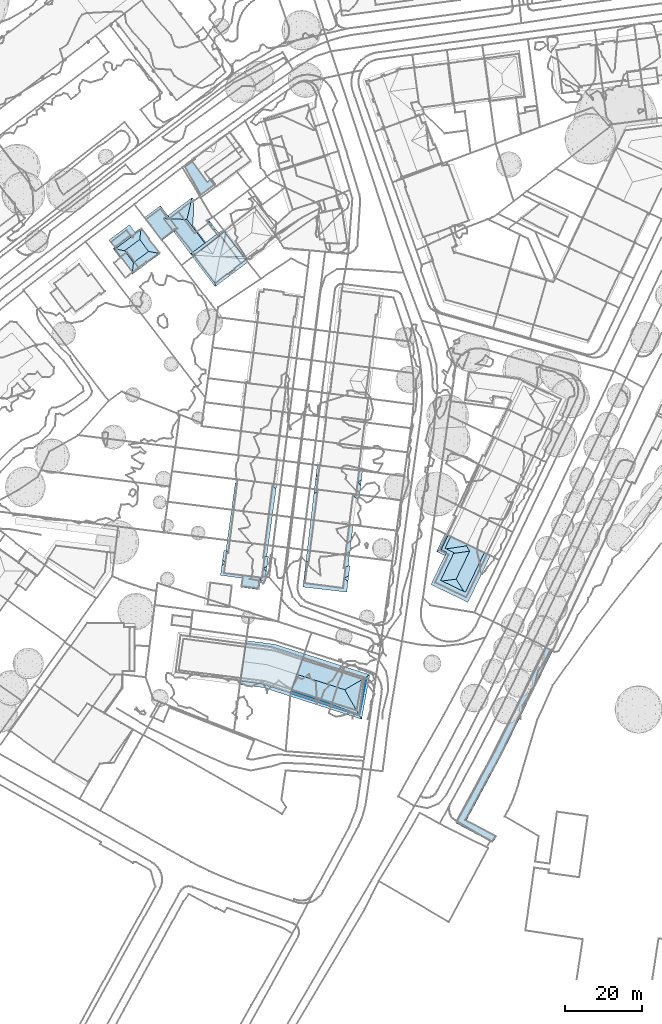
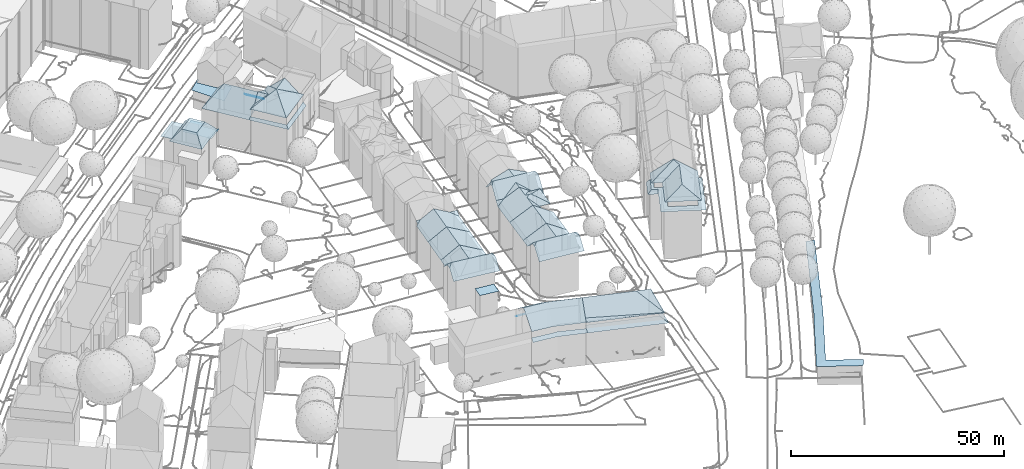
# Not in any storey, part 72 of 477: 24 roofs.
"""IFC4 building model written with IfcOpenShell, lengths in metres."""

import ifcopenshell
import ifcopenshell.guid

model = None  # the IFC model being written
_history = None  # IfcOwnerHistory: only IFC2X3 demands one
_inside = {}  # id of a spatial element -> (the spatial element, [elements in it])
_under = {}  # id of a project, library or spatial element -> (it, [spatial elements below it])
_declared = {}  # id of a project -> (the project, [libraries it declares])
_typed = {}  # id of a type object -> (the type object, [elements of that type])
_made_of = {}  # id of a material, layer set ... -> (it, [elements and type objects made of it])


def new_model(schema):
    """Start an empty IFC model of exactly this schema.

    Asked for "IFC4X3", IfcOpenShell would pick the latest addendum, in which some entities
    have other attributes; the version numbers below select the first issue.
    IFC2X3 requires an IfcOwnerHistory on every rooted entity: one is made here for all.
    """
    global model, _history
    if schema == "IFC4X3":
        model = ifcopenshell.file(schema_version=(4, 3, 0, 0))
    else:
        model = ifcopenshell.file(schema=schema)
    _inside.clear()
    _under.clear()
    _declared.clear()
    _typed.clear()
    _made_of.clear()
    _history = None
    if model.schema == "IFC2X3":
        org = make("IfcOrganization", Name="unknown")
        user = make(
            "IfcPersonAndOrganization",
            ThePerson=make("IfcPerson", FamilyName="unknown"),
            TheOrganization=org,
        )
        app = make(
            "IfcApplication",
            ApplicationDeveloper=org,
            Version="unknown",
            ApplicationFullName="unknown",
            ApplicationIdentifier="unknown",
        )
        _history = make(
            "IfcOwnerHistory",
            OwningUser=user,
            OwningApplication=app,
            ChangeAction="ADDED",
            CreationDate=0,
        )
    return model


def make(cls, **values):
    """One entity of the class cls with the attributes given. An attribute that is None is left unset."""
    return model.create_entity(
        cls, **{name: value for name, value in values.items() if value is not None}
    )


def rooted(cls, **values):
    """An entity with a GlobalId (a new one), such as an element, a storey or a relation."""
    return make(cls, GlobalId=ifcopenshell.guid.new(), OwnerHistory=_history, **values)


def si_unit(unit_type, name, prefix=None):
    """IfcSIUnit, for example si_unit("LENGTHUNIT", "METRE", prefix="MILLI")."""
    return make("IfcSIUnit", UnitType=unit_type, Prefix=prefix, Name=name)


def assignment(units):
    """IfcUnitAssignment: the units of a project."""
    return None if units is None else make("IfcUnitAssignment", Units=units)


def point(xyz):
    """IfcCartesianPoint."""
    return None if xyz is None else make("IfcCartesianPoint", Coordinates=xyz)


def direction(xyz):
    """IfcDirection."""
    return None if xyz is None else make("IfcDirection", DirectionRatios=xyz)


def frame(location, z_axis=None, x_axis=None):
    """IfcAxis2Placement3D, a coordinate frame: its origin and axes. An axis left out is left unset."""
    return make(
        "IfcAxis2Placement3D",
        Location=point(location),
        Axis=direction(z_axis),
        RefDirection=direction(x_axis),
    )


def origin_with_axes():
    """The frame at (0, 0, 0) with the z axis (0, 0, 1) and the x axis (1, 0, 0) written out."""
    return frame((0.0, 0.0, 0.0), z_axis=(0.0, 0.0, 1.0), x_axis=(1.0, 0.0, 0.0))


def place(relative_to, where):
    """IfcLocalPlacement: puts the frame where relative to a parent placement (None: the world)."""
    return make(
        "IfcLocalPlacement", PlacementRelTo=relative_to, RelativePlacement=where
    )


def context(
    kind, dimensions, precision=None, world=None, true_north=None, identifier=None
):
    """IfcGeometricRepresentationContext, for example the 3D "Model" context."""
    return make(
        "IfcGeometricRepresentationContext",
        ContextIdentifier=identifier,
        ContextType=kind,
        CoordinateSpaceDimension=dimensions,
        Precision=precision,
        WorldCoordinateSystem=world,
        TrueNorth=true_north,
    )


def subcontext(parent, identifier, kind, view, scale=None):
    """IfcGeometricRepresentationSubContext, for example "Body" below "Model"."""
    return make(
        "IfcGeometricRepresentationSubContext",
        ContextIdentifier=identifier,
        ContextType=kind,
        ParentContext=parent,
        TargetScale=scale,
        TargetView=view,
    )


def project(units=None, contexts=None):
    """IfcProject with its units and contexts."""
    return rooted(
        "IfcProject",
        Name="project",
        RepresentationContexts=contexts,
        UnitsInContext=assignment(units),
    )


def spatial(cls, under=None, at=None, **own):
    """A site, building, storey or space (cls), placed at a placement, below another one or the project."""
    s = rooted(cls, ObjectPlacement=at, **own)
    if under is not None:
        _under.setdefault(under.id(), (under, []))[1].append(s)
    return s


def point_list(points):
    """IfcCartesianPointList2D or 3D."""
    cls = (
        "IfcCartesianPointList2D" if len(points[0]) == 2 else "IfcCartesianPointList3D"
    )
    return make(cls, CoordList=points)


def polygons(points, faces, closed=None, point_numbers=None):
    """IfcPolygonalFaceSet: a face is its outer loop, then its inner loops; points numbered from 1."""
    made = []
    for loops in faces:
        if len(loops) == 1:
            made.append(make("IfcIndexedPolygonalFace", CoordIndex=loops[0]))
        else:
            made.append(
                make(
                    "IfcIndexedPolygonalFaceWithVoids",
                    CoordIndex=loops[0],
                    InnerCoordIndices=loops[1:],
                )
            )
    return make(
        "IfcPolygonalFaceSet",
        Coordinates=point_list(points),
        Closed=closed,
        Faces=made,
        PnIndex=point_numbers,
    )


def shape(context_of_items, identifier, shape_type, items):
    """IfcShapeRepresentation: the items that make up one representation, for example the "Body"."""
    return make(
        "IfcShapeRepresentation",
        ContextOfItems=context_of_items,
        RepresentationIdentifier=identifier,
        RepresentationType=shape_type,
        Items=items,
    )


def made_of(thing, what):
    """Note that an element or type object is made of a material, layer set ...; save() writes the relation."""
    if what is not None:
        _made_of.setdefault(what.id(), (what, []))[1].append(thing)
    return thing


def element(
    cls,
    number,
    at=None,
    inside=None,
    cuts=None,
    type_object=None,
    material=None,
    context=None,
    identifier="Body",
    shape_type=None,
    held_by="IfcProductDefinitionShape",
    body=None,
    shapes=None,
    **own,
):
    """One element of the class cls, such as IfcWall. Its Tag is "e" and its number.

    at: its placement. inside: the storey or other place that contains it. cuts: it is an
    opening in that element (IfcRelVoidsElement). A single representation is given by context,
    identifier, shape_type and body (its items); several are given by shapes. held_by: the class
    of the entity that holds the representations. save() writes the other relations.
    """
    e = rooted(cls, Tag="e%d" % number, ObjectPlacement=at, **own)
    if body is not None:
        shapes = [shape(context, identifier, shape_type, body)]
    if shapes is not None:
        e.Representation = make(held_by, Representations=shapes)
    if inside is not None:
        _inside.setdefault(inside.id(), (inside, []))[1].append(e)
    if cuts is not None:
        rooted(
            "IfcRelVoidsElement", RelatingBuildingElement=cuts, RelatedOpeningElement=e
        )
    if type_object is not None:
        _typed.setdefault(type_object.id(), (type_object, []))[1].append(e)
    return made_of(e, material)


def aggregate(whole, parts):
    """IfcRelAggregates: a whole, such as a stair, and the parts it consists of."""
    return rooted("IfcRelAggregates", RelatingObject=whole, RelatedObjects=parts)


def save(model, path):
    """Write the relations noted so far, then the file.

    IfcRelAggregates (storeys below a building ...), IfcRelContainedInSpatialStructure (elements
    in a storey), IfcRelDefinesByType, IfcRelAssociatesMaterial and IfcRelDeclares: one each for
    every whole, place, type object, material and project.
    """
    for whole, parts in _under.values():
        aggregate(whole, parts)
    for where, things in _inside.values():
        rooted(
            "IfcRelContainedInSpatialStructure",
            RelatedElements=things,
            RelatingStructure=where,
        )
    for kind, things in _typed.values():
        rooted("IfcRelDefinesByType", RelatedObjects=things, RelatingType=kind)
    for what, things in _made_of.values():
        rooted("IfcRelAssociatesMaterial", RelatedObjects=things, RelatingMaterial=what)
    for by, libraries in _declared.values():
        rooted("IfcRelDeclares", RelatingContext=by, RelatedDefinitions=libraries)
    model.write(path)


model = new_model("IFC4")

# Units and contexts
model_context = context("Model", 3, precision=1e-05, world=origin_with_axes())
body_context = subcontext(model_context, "Body", "Model", "MODEL_VIEW")
ifc_project = project(units=[si_unit("AREAUNIT", "SQUARE_METRE"), si_unit("LENGTHUNIT", "METRE")], contexts=[model_context])

# Sites, building
site_1_placement = place(None, origin_with_axes())
site_1 = spatial("IfcSite", under=ifc_project, at=site_1_placement, Name="Topoexport Site")
site_2_placement = place(site_1_placement, origin_with_axes())
site_2 = spatial("IfcSite", under=site_1, at=site_2_placement, Name="TPX_BUILDINGS")
building_1_placement = place(site_2_placement, frame((489.4687320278, 34.2352160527, 498.9664), z_axis=(0.0, 0.0, 1.0), x_axis=(1.0, 0.0, 0.0)))
building_1 = spatial("IfcBuilding", under=site_2, at=building_1_placement, Name="Building 15", CompositionType="ELEMENT")

# Roofs
roof_1_placement = place(None, frame((489.4687320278, 34.2352160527, 498.9664), z_axis=(0.0, 0.0, 1.0), x_axis=(1.0, 0.0, 0.0)))
element("IfcRoof", 1, at=roof_1_placement, inside=building_1, Name="Roof 0", context=body_context, shape_type="Tessellation", body=[
    polygons([(2.5169999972, 7.0595000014, 13.5567), (0.3369999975, 8.1103000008, 13.5567), (1.1779999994, 8.4442999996, 14.0427), (2.8189999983, 7.6884000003, 14.0667), (1.5649999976, 8.5986000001, 14.2667), (2.7929999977, 7.6347000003, 14.0227), (2.9379999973, 7.936499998, 14.2667), (1.4230000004, 0.6092999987, 14.2666), (7.8599999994, -2.4902999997, 14.2666), (8.5329999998, -5.1308999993, 14.2666), (12.7919999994, 7.7509000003, 14.2666), (14.3699999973, 6.9891999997, 14.2666), (2.5169999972, 7.0595000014, 14.2667), (-1.1160000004, -0.4834000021, 14.2667), (4.8990000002, 7.8242000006, 14.2667), (2.5659999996, 8.9481999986, 14.2667), (3.3489999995, 12.3037, 14.2667), (4.0260000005, 11.9774999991, 14.2667), (3.1030000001, 12.4228000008, 14.0497), (2.5439999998, 12.6922999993, 13.5567)], [[[3, 2, 1]], [[5, 3, 4]], [[1, 6, 3]], [[7, 5, 4]], [[4, 3, 6]], [[10, 9, 8]], [[12, 11, 9]], [[12, 9, 10]], [[14, 8, 13]], [[8, 14, 10]], [[13, 8, 15]], [[15, 7, 13]], [[16, 5, 7]], [[16, 17, 5]], [[7, 15, 16]], [[16, 18, 17]], [[19, 3, 17]], [[3, 19, 20]], [[17, 3, 5]], [[3, 20, 2]]]),
])
roof_2_placement = place(None, frame((489.4687320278, 34.2352160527, 498.9664), z_axis=(0.0, 0.0, 1.0), x_axis=(1.0, 0.0, 0.0)))
element("IfcRoof", 2, at=roof_2_placement, inside=building_1, Name="Roof 1", context=body_context, shape_type="Tessellation", body=[
    polygons([(12.7919999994, 7.7509000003, 16.6284), (7.4649999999, -2.3007999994, 16.9194), (8.9789999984, 8.2215999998, 19.0422), (5.4569999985, 0.9081999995, 19.0422), (8.2099999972, -3.4913000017, 16.1305), (8.311999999, 9.9100999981, 19.9281), (8.1579999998, 9.5907999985, 19.9281), (13.4679999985, 7.4248000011, 16.1305), (4.0260000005, 11.9774999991, 16.6484), (1.5649999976, 8.5986000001, 16.1305), (3.3499999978, 12.3037, 16.1305), (2.8809999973, 8.7967999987, 16.8884), (4.7939999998, 7.6063999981, 16.6434), (3.8979999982, 7.4745999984, 16.1305), (1.7850000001, 0.4354999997, 16.9184), (0.4219999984, 0.2597000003, 16.1305)], [[[3, 2, 1]], [[3, 4, 2]], [[2, 5, 1]], [[6, 3, 1]], [[7, 3, 6]], [[1, 5, 8]], [[11, 10, 9]], [[9, 10, 12]], [[12, 6, 9]], [[6, 12, 7]], [[7, 12, 13]], [[7, 13, 3]], [[13, 12, 14]], [[10, 14, 12]], [[15, 4, 14]], [[16, 15, 14]], [[4, 13, 14]], [[13, 4, 3]], [[15, 16, 2]], [[15, 2, 4]], [[2, 16, 5]]]),
])

# Building
building_2_placement = place(site_2_placement, frame((211.8297320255, 101.9383160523, 526.7541), z_axis=(0.0, 0.0, 1.0), x_axis=(1.0, 0.0, 0.0)))
building_2 = spatial("IfcBuilding", under=site_2, at=building_2_placement, Name="Building 18", CompositionType="ELEMENT")

# Roof
roof_3_placement = place(None, frame((211.8297320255, 101.9383160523, 526.7541), z_axis=(0.0, 0.0, 1.0), x_axis=(1.0, 0.0, 0.0)))
element("IfcRoof", 3, at=roof_3_placement, inside=building_2, Name="Roof 64", context=body_context, shape_type="Tessellation", body=[
    polygons([(285.5199999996, -129.5850000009, -22.1683), (292.5879999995, -135.4990000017, -22.4103), (282.887000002, -130.2734999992, -22.4803), (285.8509999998, -129.4981000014, -22.1293), (293.699000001, -133.6816999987, -22.0663), (286.8520000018, -122.9629000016, -22.4553), (295.0970000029, -112.2734999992, -22.0813), (288.9610000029, -118.9618999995, -22.4413), (308.0360000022, -85.378899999, -22.2123), (308.262000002, -85.4862999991, -22.1743), (293.1669999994, -111.2822000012, -22.4163), (306.381000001, -84.5868999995, -22.4942), (306.6080000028, -84.6953000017, -22.4562)], [[[3, 2, 1]], [[1, 5, 4]], [[5, 1, 2]], [[6, 1, 4]], [[8, 4, 7]], [[6, 4, 8]], [[6, 3, 1]], [[10, 9, 7]], [[7, 11, 8]], [[11, 7, 12]], [[13, 12, 7]], [[7, 9, 13]]]),
])

# Building
building_3_placement = place(site_2_placement, frame((405.0787320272, 122.9930160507, 499.2066), z_axis=(0.0, 0.0, 1.0), x_axis=(1.0, 0.0, 0.0)))
building_3 = spatial("IfcBuilding", under=site_2, at=building_3_placement, Name="Building 33", CompositionType="ELEMENT")

# Roof
roof_4_placement = place(None, frame((405.0787320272, 122.9930160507, 499.2066), z_axis=(0.0, 0.0, 1.0), x_axis=(1.0, 0.0, 0.0)))
element("IfcRoof", 4, at=roof_4_placement, inside=building_3, Name="Roof 1", context=body_context, shape_type="Tessellation", body=[
    polygons([(7.4089999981, 0.6523000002, 13.0277), (5.7729999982, -5.3779999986, 13.0277), (3.4679999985, -2.2675999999, 13.0277), (9.7139999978, -2.4570999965, 13.0277), (5.5599999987, 1.3779000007, 10.721), (5.563000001, 1.0937000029, 10.721), (5.4230000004, 1.2763000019, 10.721), (5.6979999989, 1.1972000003, 10.721), (1.3409999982, -1.7470999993, 10.721), (1.5280000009, -1.9912, 10.721), (1.1939999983, -1.8564999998, 10.721), (1.3790000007, -2.1064999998, 10.721), (-0.6570000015, 0.4883000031, 10.721), (4.748999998, 4.496100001, 10.721), (6.432, 2.2226000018, 10.721), (1.0260000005, -1.7822999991, 10.721), (7.7100000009, 3.2187000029, 10.672), (6.3370000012, 2.3515000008, 10.521), (7.7690000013, 3.7187000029, 10.213), (5.0779999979, 1.7256000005, 10.213), (5.2280000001, 1.5293000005, 10.521), (1.4620000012, -1.9042999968, 11.1689), (0.9959999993, -1.2978999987, 10.213), (1.0, -1.2949999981, 10.213), (1.1459999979, -1.4941999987, 10.521), (0.930999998, -1.6532999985, 10.521), (0.4299999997, -1.7187999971, 10.213), (12.3969999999, -2.9423999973, 10.542), (5.4129999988, -8.4433999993, 10.213), (5.4959999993, -7.7402999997, 10.8589), (12.7520000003, -3.0058999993, 10.213), (9.9129999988, 0.8252000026, 10.213), (7.9809999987, 3.4267000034, 10.213)], [[[3, 2, 1]], [[4, 1, 2]], [[7, 6, 5]], [[8, 5, 6]], [[11, 10, 9]], [[12, 10, 11]], [[15, 14, 13]], [[16, 15, 13]], [[19, 18, 17]], [[18, 19, 20]], [[20, 21, 18]], [[17, 15, 1]], [[15, 17, 18]], [[1, 15, 22]], [[25, 24, 23]], [[25, 23, 26]], [[26, 23, 27]], [[1, 22, 3]], [[16, 26, 27]], [[15, 16, 22]], [[22, 16, 27]], [[30, 29, 28]], [[2, 30, 4]], [[28, 4, 30]], [[31, 28, 29]], [[22, 2, 3]], [[30, 22, 27]], [[22, 30, 2]], [[30, 27, 29]], [[1, 28, 32]], [[1, 4, 28]], [[28, 31, 32]], [[32, 33, 17]], [[19, 17, 33]], [[32, 17, 1]]]),
])

# Building
building_4_placement = place(site_2_placement, frame((434.497732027, 36.682416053, 499.5704), z_axis=(0.0, 0.0, 1.0), x_axis=(1.0, 0.0, 0.0)))
building_4 = spatial("IfcBuilding", under=site_2, at=building_4_placement, Name="Building 42", CompositionType="ELEMENT")

# Roofs
roof_5_placement = place(None, frame((434.497732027, 36.682416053, 499.5704), z_axis=(0.0, 0.0, 1.0), x_axis=(1.0, 0.0, 0.0)))
element("IfcRoof", 5, at=roof_5_placement, inside=building_4, Name="Roof 0", context=body_context, shape_type="Tessellation", body=[
    polygons([(9.1459999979, -4.3037, 7.4243), (4.375, -3.6435000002, 7.4243), (4.7969999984, -0.5956999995, 7.4243), (9.5789999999, -1.1737999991, 7.4243)], [[[3, 2, 1]], [[1, 4, 3]]]),
])
roof_6_placement = place(None, frame((434.497732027, 36.682416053, 499.5704), z_axis=(0.0, 0.0, 1.0), x_axis=(1.0, 0.0, 0.0)))
element("IfcRoof", 6, at=roof_6_placement, inside=building_4, Name="Roof 1", context=body_context, shape_type="Tessellation", body=[
    polygons([(11.2010000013, 1.9560999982, 13.7787), (10.3559999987, 1.2793000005, 14.5296), (10.2470000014, 4.1396999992, 11.8349), (4.6660000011, 2.066399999, 14.5296), (10.6349999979, -2.1317999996, 11.4229), (-0.6469999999, 1.9296999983, 13.7267), (-0.9860000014, -0.5223999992, 11.4229), (10.9739999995, 0.3213, 13.7267), (1.1220000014, 5.3095999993, 11.9249), (0.2529999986, 2.6777999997, 14.5296), (-0.0819999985, 6.0058999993, 11.4229), (0.4389999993, 5.933600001, 11.4229), (-0.4200000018, 3.5645000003, 13.7787), (5.4829999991, 7.9668000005, 14.5296), (1.3920000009, 8.4776000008, 11.8149), (1.5179999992, 8.4609999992, 11.8989), (10.6510000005, 7.3222999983, 11.8539), (11.4820000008, 7.2188000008, 11.4229), (11.1000000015, 4.4560999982, 11.4229), (0.8610000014, 8.5439999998, 11.4659), (0.800999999, 8.5517999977, 11.4229), (11.5390000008, 4.3964999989, 11.4229), (2.4149999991, 8.3495999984, 12.3438), (1.5179999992, 8.4609999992, 11.6989)], [[[3, 2, 1]], [[3, 4, 2]], [[6, 5, 4]], [[4, 5, 2]], [[5, 6, 7]], [[2, 5, 8]], [[10, 4, 9]], [[9, 12, 11]], [[11, 13, 9]], [[9, 13, 10]], [[9, 4, 14]], [[12, 9, 15]], [[16, 15, 9]], [[14, 16, 9]], [[6, 4, 10]], [[14, 4, 17]], [[17, 4, 3]], [[18, 17, 3]], [[18, 3, 19]], [[12, 15, 20]], [[12, 20, 21]], [[13, 6, 10]], [[1, 22, 3]], [[3, 22, 19]], [[8, 1, 2]], [[14, 24, 23]]]),
])

# Building
building_5_placement = place(site_2_placement, frame((437.0167320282, 53.1053160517, 499.5705), z_axis=(0.0, 0.0, 1.0), x_axis=(1.0, 0.0, 0.0)))
building_5 = spatial("IfcBuilding", under=site_2, at=building_5_placement, Name="Building 43", CompositionType="ELEMENT")

# Roof
roof_7_placement = place(None, frame((437.0167320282, 53.1053160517, 499.5705), z_axis=(0.0, 0.0, 1.0), x_axis=(1.0, 0.0, 0.0)))
element("IfcRoof", 7, at=roof_7_placement, inside=building_5, Name="Roof 0", context=body_context, shape_type="Tessellation", body=[
    polygons([(9.1429999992, -1.1475000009, 11.8998), (9.1739999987, 6.9345000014, 12.4527), (10.0839999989, 6.2567999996, 11.9418), (5.1639999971, 7.4354999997, 14.5296), (4.0639999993, -0.5097999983, 14.5295), (11.0089999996, 5.566399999, 11.4228), (10.0629999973, -1.2626999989, 11.4228), (1.7649999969, -0.2216999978, 13.0037), (4.6549999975, 7.4990000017, 14.1926), (10.4709999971, 6.7723999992, 12.4687), (11.1639999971, 6.6854999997, 12.4777), (0.0, 0.0, 11.8448), (1.8079999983, 7.8553999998, 12.3228), (-0.3780000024, 0.0478000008, 11.5968), (0.8019999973, 7.3515000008, 11.7168), (-0.6170000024, 0.0771000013, 11.4228), (0.3469999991, 7.0428999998, 11.4229), (0.743999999, 7.9882999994, 12.3058), (0.7619999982, 7.7928999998, 12.1258), (0.9560000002, -0.1191999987, 12.3478), (1.7649999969, -0.2216999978, 12.8037)], [[[3, 2, 1]], [[5, 2, 4]], [[1, 6, 3]], [[7, 6, 1]], [[1, 2, 5]], [[4, 9, 8]], [[8, 5, 4]], [[3, 6, 10]], [[3, 10, 2]], [[10, 6, 11]], [[12, 8, 9]], [[14, 12, 13]], [[13, 15, 14]], [[12, 9, 13]], [[16, 14, 15]], [[15, 17, 16]], [[19, 13, 18]], [[13, 19, 15]], [[21, 12, 20]]]),
])

# Building
building_6_placement = place(site_2_placement, frame((436.0157320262, 45.1434160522, 499.5705), z_axis=(0.0, 0.0, 1.0), x_axis=(1.0, 0.0, 0.0)))
building_6 = spatial("IfcBuilding", under=site_2, at=building_6_placement, Name="Building 51", CompositionType="ELEMENT")

# Roof
roof_8_placement = place(None, frame((436.0157320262, 45.1434160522, 499.5705), z_axis=(0.0, 0.0, 1.0), x_axis=(1.0, 0.0, 0.0)))
element("IfcRoof", 8, at=roof_8_placement, inside=building_6, Name="Roof 0", context=body_context, shape_type="Tessellation", body=[
    polygons([(9.1330000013, -1.1387000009, 11.8538), (5.0650000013, 7.4510999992, 14.5295), (10.1440000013, 6.8143999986, 11.8998), (9.9640000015, -1.2421999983, 11.4228), (11.0639999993, 6.6992000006, 11.4228), (3.9649999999, -0.4941999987, 14.5295), (0.0, 0.0, 11.8988), (-0.1259999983, 0.0166000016, 11.8148), (0.0670000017, 0.5331999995, 11.8938), (2.7659999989, 7.7402000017, 13.0037), (1.001000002, 7.9618999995, 11.8448), (0.6229999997, 8.0097000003, 11.5968), (-0.6569999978, 0.0830000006, 11.4658), (-0.7170000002, 0.0907999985, 11.4228), (0.3839999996, 8.0390000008, 11.4228)], [[[3, 2, 1]], [[5, 3, 4]], [[1, 4, 3]], [[6, 1, 2]], [[9, 8, 7]], [[9, 7, 6]], [[6, 10, 9]], [[10, 6, 2]], [[9, 10, 11]], [[13, 11, 12]], [[11, 8, 9]], [[8, 11, 13]], [[14, 13, 12]], [[12, 15, 14]]]),
])

# Building
building_7_placement = place(site_2_placement, frame((456.9307320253, 42.5213160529, 499.4054), z_axis=(0.0, 0.0, 1.0), x_axis=(1.0, 0.0, 0.0)))
building_7 = spatial("IfcBuilding", under=site_2, at=building_7_placement, Name="Building 53", CompositionType="ELEMENT")

# Roof
roof_9_placement = place(None, frame((456.9307320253, 42.5213160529, 499.4054), z_axis=(0.0, 0.0, 1.0), x_axis=(1.0, 0.0, 0.0)))
element("IfcRoof", 9, at=roof_9_placement, inside=building_7, Name="Roof 0", context=body_context, shape_type="Tessellation", body=[
    polygons([(5.9710000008, 7.316399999, 14.9436), (0.0, 0.0, 12.0539), (0.9930000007, 7.9501999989, 12.0879), (0.1130000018, 8.0625, 11.5829), (-0.8219999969, 0.1044999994, 11.5829), (5.0370000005, -0.6396999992, 14.9436), (10.2240000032, -1.2998000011, 11.5829), (10.9629999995, 6.6807000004, 11.6909), (11.1590000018, 6.6552999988, 11.5829), (10.1760000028, -1.2939999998, 11.6089), (8.0789999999, 7.0487999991, 13.5817), (9.1860000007, -1.1669999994, 12.2588), (8.807, -1.1182000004, 12.5078), (10.1860000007, 6.7793000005, 12.2009)], [[[3, 2, 1]], [[5, 3, 4]], [[2, 6, 1]], [[5, 2, 3]], [[9, 8, 7]], [[10, 7, 8]], [[13, 12, 11]], [[13, 1, 6]], [[1, 13, 11]], [[8, 14, 12]], [[12, 10, 8]], [[12, 14, 11]]]),
])

# Building
building_8_placement = place(site_2_placement, frame((457.923732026, 50.4715160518, 499.4055), z_axis=(0.0, 0.0, 1.0), x_axis=(1.0, 0.0, 0.0)))
building_8 = spatial("IfcBuilding", under=site_2, at=building_8_placement, Name="Building 56", CompositionType="ELEMENT")

# Roof
roof_10_placement = place(None, frame((457.923732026, 50.4715160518, 499.4055), z_axis=(0.0, 0.0, 1.0), x_axis=(1.0, 0.0, 0.0)))
element("IfcRoof", 10, at=roof_10_placement, inside=building_8, Name="Roof 1", context=body_context, shape_type="Tessellation", body=[
    polygons([(6.0969999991, 3.2529000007, 15.2145), (5.370000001, 2.7148000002, 14.9435), (5.5080000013, 3.879900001, 14.9435), (9.8579999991, -0.6455000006, 13.7096), (9.2679999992, -0.5762000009, 13.7096), (6.9499999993, -0.302699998, 13.7096), (6.7349999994, 3.1777000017, 15.2145), (10.6740000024, 5.8720999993, 13.7486), (10.0870000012, 5.9248000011, 13.7486), (7.6480000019, 6.1435000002, 13.7486), (0.0, 0.0, 12.0878), (4.9780000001, -0.6338, 14.9435), (-0.879999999, 0.1123000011, 11.5828), (-0.0649999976, 7.0478000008, 11.5828), (1.9719999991, 7.8330000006, 12.6817), (5.9140000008, 7.3291000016, 14.9435), (0.9270000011, 7.4307000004, 12.1178), (10.1339999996, 6.2998000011, 12.1458), (10.1460000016, 6.3973999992, 12.1728), (10.6740000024, 5.8720999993, 11.7648), (10.993999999, 5.7479999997, 11.5828), (9.3990000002, 6.8828000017, 12.6627), (9.5350000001, 6.8662, 12.5977), (9.9790000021, 5.9354999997, 12.2188), (9.1400000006, 6.009800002, 12.7657), (6.3570000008, 7.2723999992, 14.6575), (7.9409999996, 6.1172000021, 13.5486), (7.2530000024, -0.3388999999, 13.5096), (7.3210000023, -0.3466999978, 13.4706), (7.0859999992, -0.9013999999, 13.5816), (7.0329999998, -0.3125, 13.6596), (0.0560000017, 8.0780999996, 12.7037), (0.7149999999, 7.9941000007, 12.6957), (11.7589999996, 5.6581999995, 11.5828), (11.8660000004, 6.567400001, 12.5717), (10.9869999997, 6.6797000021, 12.5817)], [[[3, 2, 1]], [[5, 4, 1]], [[2, 5, 1]], [[6, 5, 2]], [[1, 4, 7]], [[4, 8, 7]], [[10, 7, 9]], [[8, 9, 7]], [[12, 2, 11]], [[14, 13, 11]], [[11, 2, 15]], [[3, 16, 15]], [[14, 11, 17]], [[17, 11, 15]], [[2, 3, 15]], [[20, 19, 18]], [[19, 20, 21]], [[19, 23, 22]], [[19, 22, 18]], [[1, 7, 3]], [[10, 3, 7]], [[25, 24, 22]], [[24, 18, 22]], [[27, 22, 26]], [[22, 27, 25]], [[26, 16, 3]], [[26, 10, 27]], [[26, 3, 10]], [[30, 29, 28]], [[30, 28, 31]], [[6, 12, 30]], [[2, 12, 6]], [[6, 30, 31]], [[33, 32, 17]], [[33, 17, 15]], [[17, 32, 14]], [[21, 34, 19]], [[19, 34, 35]], [[36, 23, 19]], [[36, 19, 35]]]),
])

# Building
building_9_placement = place(site_2_placement, frame((458.6387320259, 58.4656160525, 499.4055), z_axis=(0.0, 0.0, 1.0), x_axis=(1.0, 0.0, 0.0)))
building_9 = spatial("IfcBuilding", under=site_2, at=building_9_placement, Name="Building 58", CompositionType="ELEMENT")

# Roof
roof_11_placement = place(None, frame((458.6387320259, 58.4656160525, 499.4055), z_axis=(0.0, 0.0, 1.0), x_axis=(1.0, 0.0, 0.0)))
element("IfcRoof", 11, at=roof_11_placement, inside=building_9, Name="Roof 0", context=body_context, shape_type="Tessellation", body=[
    polygons([(10.3780000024, 5.0342000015, 14.1246), (5.5730000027, 2.5097999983, 16.0924), (5.9360000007, 5.5986999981, 16.0924), (10.2230000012, 3.7157999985, 14.1246), (1.375, 4.6865000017, 14.2016), (1.5480000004, 6.1581999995, 14.2016), (5.199000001, -0.6649999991, 14.9435), (1.2569999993, -0.1611000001, 12.6817), (5.4480000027, 1.4541000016, 14.9435), (5.6420000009, -0.7217000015, 14.6575), (8.6840000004, -1.1112999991, 12.6627), (8.8200000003, -1.1279000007, 12.5977), (11.0549999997, 4.9483000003, 12.6317), (11.8880000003, 4.8418000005, 12.6407), (11.629999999, 2.6493999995, 15.1385), (10.7650000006, 1.9004000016, 16.0924), (11.4450000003, 1.0762000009, 15.2935), (0.9719999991, 6.2314999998, 12.5187), (-0.193, 4.0381000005, 15.1385), (0.0769999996, 6.3447999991, 12.5098), (0.2820000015, 3.1328000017, 16.0924), (0.7910000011, 6.253899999, 12.5167), (-0.3779999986, 2.4648999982, 15.2935), (10.2719999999, -1.3134999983, 12.5817), (11.1510000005, -1.4266999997, 12.5717), (0.0, 0.0, 12.6957), (-0.6589999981, 0.0839999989, 12.7037)], [[[3, 2, 1]], [[4, 1, 2]], [[6, 5, 2]], [[2, 3, 6]], [[9, 8, 7]], [[10, 9, 7]], [[11, 9, 10]], [[12, 9, 11]], [[4, 13, 1]], [[15, 14, 4]], [[4, 14, 13]], [[4, 2, 16]], [[16, 15, 4]], [[17, 15, 16]], [[18, 5, 6]], [[5, 20, 19]], [[19, 21, 5]], [[2, 5, 21]], [[18, 22, 5]], [[5, 22, 20]], [[19, 23, 21]], [[9, 17, 16]], [[25, 17, 24]], [[12, 24, 17]], [[12, 17, 9]], [[9, 16, 2]], [[21, 23, 9]], [[9, 23, 8]], [[8, 23, 26]], [[23, 27, 26]], [[21, 9, 2]]]),
])

# Building
building_10_placement = place(site_2_placement, frame((455.554732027, 34.0604160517, 499.4054), z_axis=(0.0, 0.0, 1.0), x_axis=(1.0, 0.0, 0.0)))
building_10 = spatial("IfcBuilding", under=site_2, at=building_10_placement, Name="Building 60", CompositionType="ELEMENT")

# Roof
roof_12_placement = place(None, frame((455.554732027, 34.0604160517, 499.4054), z_axis=(0.0, 0.0, 1.0), x_axis=(1.0, 0.0, 0.0)))
element("IfcRoof", 12, at=roof_12_placement, inside=building_10, Name="Roof 0", context=body_context, shape_type="Tessellation", body=[
    polygons([(10.1829999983, 7.3427000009, 12.5078), (10.3429999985, 5.5487999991, 12.2718), (6.4129999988, 7.821200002, 14.9436), (10.4869999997, 4.1748000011, 12.0768), (5.7109999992, 1.8496000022, 14.9436), (0.5540000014, 8.5654000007, 11.5829), (1.3759999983, 8.4598999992, 12.0549), (0.2410000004, 5.9002999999, 11.5829), (10.561999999, 7.2928999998, 12.2588), (11.2989999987, 4.6015000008, 11.5829), (11.5520000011, 7.1669000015, 11.6089), (10.4400000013, 3.9218000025, 12.3338), (10.3090000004, 1.7607000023, 14.5006), (10.1570000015, 1.3280999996, 14.9436), (11.693, 4.5546000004, 11.5829), (11.3880000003, 1.9482000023, 14.1886), (-0.2390000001, 1.8134000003, 14.2466), (0.7010000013, 2.4384000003, 14.9436), (-0.5659999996, -0.9619999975, 11.5829), (11.2129999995, 0.4686999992, 14.2466), (10.8880000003, -2.3066999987, 11.5829), (0.3559999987, 2.8232000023, 14.6046), (-0.0659999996, 3.2939000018, 14.1887)], [[[3, 2, 1]], [[2, 3, 4]], [[5, 4, 3]], [[7, 6, 5]], [[5, 3, 7]], [[5, 6, 8]], [[2, 4, 9]], [[11, 4, 10]], [[9, 1, 2]], [[11, 9, 4]], [[14, 13, 12]], [[10, 12, 13]], [[16, 15, 13]], [[13, 15, 10]], [[13, 14, 16]], [[5, 18, 17]], [[20, 17, 19]], [[20, 5, 17]], [[14, 5, 20]], [[20, 19, 21]], [[14, 20, 16]], [[5, 14, 12]], [[5, 12, 4]], [[5, 22, 18]], [[22, 5, 23]], [[8, 23, 5]], [[22, 23, 17]], [[17, 18, 22]], [[12, 10, 4]]]),
])

# Building
building_11_placement = place(site_2_placement, frame((424.3367320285, 142.6277160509, 499.4686), z_axis=(0.0, 0.0, 1.0), x_axis=(1.0, 0.0, 0.0)))
building_11 = spatial("IfcBuilding", under=site_2, at=building_11_placement, Name="Building 62", CompositionType="ELEMENT")

# Roof
roof_13_placement = place(None, frame((424.3367320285, 142.6277160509, 499.4686), z_axis=(0.0, 0.0, 1.0), x_axis=(1.0, 0.0, 0.0)))
element("IfcRoof", 13, at=roof_13_placement, inside=building_11, Name="Roof 0", context=body_context, shape_type="Tessellation", body=[
    polygons([(6.9169999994, -3.2236000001, 6.0304), (7.868999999, -4.5262999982, 6.0304), (7.5029999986, -4.8016999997, 5.9294), (5.8249999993, -4.0233999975, 5.7334), (4.1419999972, -7.3172999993, 5.0085), (4.1789999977, -7.3768999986, 5.0075), (3.4469999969, -6.1659999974, 5.0345), (-0.3900000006, 0.1856000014, 5.1775), (1.8729999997, 1.379900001, 5.7334), (2.4809999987, 2.2012000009, 5.9474), (2.7459999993, 2.4786000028, 6.0304), (2.7859999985, 2.4239000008, 6.0304), (2.6589999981, 1.9590000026, 5.9474)], [[[3, 2, 1]], [[3, 1, 4]], [[6, 3, 5]], [[8, 7, 4]], [[4, 7, 5]], [[8, 4, 9]], [[3, 4, 5]], [[12, 11, 10]], [[10, 11, 8]], [[13, 10, 9]], [[10, 8, 9]]]),
])

# Building
building_12_placement = place(site_2_placement, frame((440.0417320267, 17.4568160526, 499.2944), z_axis=(0.0, 0.0, 1.0), x_axis=(1.0, 0.0, 0.0)))
building_12 = spatial("IfcBuilding", under=site_2, at=building_12_placement, Name="Building 67", CompositionType="ELEMENT")

# Roofs
roof_14_placement = place(None, frame((440.0417320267, 17.4568160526, 499.2944), z_axis=(0.0, 0.0, 1.0), x_axis=(1.0, 0.0, 0.0)))
element("IfcRoof", 14, at=roof_14_placement, inside=building_12, Name="Roof 0", context=body_context, shape_type="Tessellation", body=[
    polygons([(11.7839999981, -11.8583999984, 10.352), (4.5890000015, -10.558600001, 9.7181), (4.7989999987, -9.6064000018, 10.36), (5.2930000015, -9.6708999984, 10.419), (11.7039999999, -12.8456999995, 9.7131), (-1.3869999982, -9.807599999, 9.7181), (-1.245000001, -8.8037, 10.388)], [[[3, 2, 1]], [[3, 1, 4]], [[1, 2, 5]], [[2, 3, 6]], [[7, 6, 3]]]),
])
roof_15_placement = place(None, frame((440.0417320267, 17.4568160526, 499.2944), z_axis=(0.0, 0.0, 1.0), x_axis=(1.0, 0.0, 0.0)))
element("IfcRoof", 15, at=roof_15_placement, inside=building_12, Name="Roof 1", context=body_context, shape_type="Tessellation", body=[
    polygons([(13.4539999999, -7.1367000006, 15.7855), (5.5150000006, -4.5918000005, 15.7855), (14.9800000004, -2.8271000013, 12.5398), (15.1220000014, -2.4248000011, 12.2368), (6.6510000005, -0.1435000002, 12.5308), (6.7540000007, 0.2608000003, 12.2348), (-0.2149999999, -1.4891999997, 14.1117), (0.1519999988, 1.1143000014, 12.2348), (-0.5419999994, -3.8104999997, 15.7855), (-1.2459999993, -8.8037, 12.3178), (4.0, -9.6044999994, 12.2348), (-1.2630000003, -8.9237999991, 12.2348), (11.7839999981, -11.8583999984, 12.3908), (11.7650000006, -12.0936999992, 12.2348)], [[[3, 2, 1]], [[5, 3, 4]], [[5, 2, 3]], [[6, 5, 4]], [[5, 7, 2]], [[8, 5, 6]], [[7, 9, 2]], [[7, 5, 8]], [[12, 11, 10]], [[11, 2, 9]], [[11, 9, 10]], [[13, 1, 2]], [[14, 13, 11]], [[11, 13, 2]]]),
])
roof_16_placement = place(None, frame((440.0417320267, 17.4568160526, 499.2944), z_axis=(0.0, 0.0, 1.0), x_axis=(1.0, 0.0, 0.0)))
element("IfcRoof", 16, at=roof_16_placement, inside=building_12, Name="Roof 2", context=body_context, shape_type="Tessellation", body=[
    polygons([(7.4470000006, -0.3993999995, 10.465), (15.3610000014, -1.7490000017, 9.7171), (14.9789999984, -2.8271000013, 10.473), (7.6939999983, 0.7071000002, 9.7181), (0.1160000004, 0.7520000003, 10.335), (6.4149999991, -0.0672999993, 10.335), (0.2309999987, 1.6768000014, 9.7181), (0.1090000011, 0.7529999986, 10.335), (0.004999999, -0.0009000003, 10.839), (0.0, 0.0, 10.839)], [[[3, 2, 1]], [[4, 1, 2]], [[6, 4, 5]], [[5, 4, 7]], [[1, 4, 6]], [[7, 8, 5]], [[9, 5, 8]], [[8, 10, 9]]]),
])

# Building
building_13_placement = place(site_2_placement, frame((451.8257320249, 5.5984160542, 499.1684), z_axis=(0.0, 0.0, 1.0), x_axis=(1.0, 0.0, 0.0)))
building_13 = spatial("IfcBuilding", under=site_2, at=building_13_placement, Name="Building 68", CompositionType="ELEMENT")

# Roofs
roof_17_placement = place(None, frame((451.8257320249, 5.5984160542, 499.1684), z_axis=(0.0, 0.0, 1.0), x_axis=(1.0, 0.0, 0.0)))
element("IfcRoof", 17, at=roof_17_placement, inside=building_13, Name="Roof 0", context=body_context, shape_type="Tessellation", body=[
    polygons([(-0.0189999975, -0.2353000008, 12.3608), (0.2470000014, 0.6933999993, 13.0158), (17.8280000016, -5.9004000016, 12.3998), (0.0, 0.0, 12.5168), (17.8730000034, -5.9716000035, 12.3608), (19.8980000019, 4.1191999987, 12.3668)], [[[3, 2, 1]], [[1, 2, 4]], [[1, 5, 3]], [[5, 6, 3]]]),
])
roof_18_placement = place(None, frame((451.8257320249, 5.5984160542, 499.1684), z_axis=(0.0, 0.0, 1.0), x_axis=(1.0, 0.0, 0.0)))
element("IfcRoof", 18, at=roof_18_placement, inside=building_13, Name="Roof 1", context=body_context, shape_type="Tessellation", body=[
    polygons([(19.2410000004, 3.7402999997, 12.7658), (19.8980000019, 4.1191999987, 12.3668), (17.8280000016, -5.9004000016, 12.3998), (14.0580000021, 0.7490999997, 15.9115), (3.3380000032, 9.4335999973, 12.3628), (3.0110000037, 8.5088, 13.0588), (3.1960000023, 9.0312999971, 12.6658), (1.6700000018, 4.7216999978, 15.9115), (0.2470000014, 0.6933999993, 13.0158), (3.3380000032, 9.4335999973, 12.1628), (19.319000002, 3.7890999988, 12.5188), (19.318, 3.7841999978, 12.5188)], [[[3, 2, 1]], [[3, 1, 4]], [[1, 2, 5]], [[4, 1, 6]], [[5, 7, 1]], [[8, 4, 6]], [[6, 1, 7]], [[9, 3, 4]], [[9, 4, 8]], [[12, 11, 10]]]),
])
roof_19_placement = place(None, frame((451.8257320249, 5.5984160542, 499.1684), z_axis=(0.0, 0.0, 1.0), x_axis=(1.0, 0.0, 0.0)))
element("IfcRoof", 19, at=roof_19_placement, inside=building_13, Name="Roof 2", context=body_context, shape_type="Tessellation", body=[
    polygons([(20.5940000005, 4.6581999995, 9.84), (18.4890000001, -6.9599000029, 9.826), (18.6110000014, -0.5595000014, 10.524), (18.688000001, 3.4833999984, 10.9649), (19.2550000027, 3.8320999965, 10.63), (3.1960000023, 9.0312999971, 10.599), (3.5770000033, 10.1093999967, 9.8431), (3.0390000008, 8.5, 10.965), (3.0110000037, 8.5088, 10.965), (17.1790000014, -4.7314000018, 10.9649), (17.8360000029, -5.8486000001, 10.394), (0.0, 0.0, 10.478), (0.2460000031, 0.6953999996, 10.965), (-0.0799999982, -0.9873000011, 9.8391)], [[[3, 2, 1]], [[5, 4, 3]], [[1, 5, 3]], [[5, 6, 4]], [[7, 5, 1]], [[6, 8, 4]], [[9, 8, 6]], [[6, 5, 7]], [[3, 4, 10]], [[11, 2, 3]], [[10, 11, 3]], [[13, 12, 10]], [[11, 12, 14]], [[12, 11, 10]], [[11, 14, 2]]]),
])

# Building
building_14_placement = place(site_2_placement, frame((426.7187320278, 119.498816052, 512.4143), z_axis=(0.0, 0.0, 1.0), x_axis=(1.0, 0.0, 0.0)))
building_14 = spatial("IfcBuilding", under=site_2, at=building_14_placement, Name="Building 69", CompositionType="ELEMENT")

# Roofs
roof_20_placement = place(None, frame((426.7187320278, 119.498816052, 512.4143), z_axis=(0.0, 0.0, 1.0), x_axis=(1.0, 0.0, 0.0)))
element("IfcRoof", 20, at=roof_20_placement, inside=building_14, Name="Roof 0", context=body_context, shape_type="Tessellation", body=[
    polygons([(6.5769999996, 5.3770000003, -2.3578), (7.4289999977, 6.7265999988, -2.9187), (7.7679999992, 6.2910000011, -2.3738), (6.6579999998, 5.2696000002, -2.2258), (7.8599999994, 6.1728999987, -2.2258), (6.2179999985, 5.1006000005, -2.3538), (0.1889999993, 0.1464999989, -2.0188), (-1.0089999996, 0.3876999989, -2.9187), (6.3579999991, 4.9307000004, -2.1358), (0.0009999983, -0.0009000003, -2.2828), (-0.4519999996, -0.3544999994, -2.9187), (5.4699999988, -7.1356999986, -2.1858), (5.4059999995, -8.1523000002, -2.9187), (11.8489999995, -2.3095000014, -2.3598), (12.2329999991, -2.0106999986, -2.9187), (12.5920000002, -2.4891999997, -2.9187), (5.4859999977, -7.1561999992, -2.2098), (10.5830000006, -3.3271000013, -2.2098), (13.981999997, -1.7089999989, -2.9187), (13.4690000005, -1.0507999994, -2.1288), (10.5859999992, -3.2899999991, -2.1838)], [[[3, 2, 1]], [[5, 1, 4]], [[1, 5, 3]], [[2, 6, 1]], [[6, 8, 7]], [[8, 6, 2]], [[9, 6, 7]], [[8, 10, 7]], [[10, 8, 11]], [[13, 12, 10]], [[10, 11, 13]], [[16, 15, 14]], [[13, 18, 17]], [[18, 13, 19]], [[17, 12, 13]], [[18, 19, 20]], [[21, 18, 20]]]),
])
roof_21_placement = place(None, frame((426.7187320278, 119.498816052, 512.4143), z_axis=(0.0, 0.0, 1.0), x_axis=(1.0, 0.0, 0.0)))
element("IfcRoof", 21, at=roof_21_placement, inside=building_14, Name="Roof 1", context=body_context, shape_type="Tessellation", body=[
    polygons([(4.8479999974, 0.3535000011, 2.2438), (1.6639999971, 1.2901000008, 0.048), (3.2309999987, 2.5058999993, 2.2438), (8.0909999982, 5.875, 0.208), (6.6579999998, 5.2696000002, -0.103), (7.8599999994, 6.1728999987, -0.103), (8.2259999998, 6.4483000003, -0.103), (6.3299999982, 4.9659000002, -0.065), (6.3579999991, 4.9307000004, -0.028), (6.299999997, 4.8858000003, -0.027), (1.8049999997, 1.3984999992, 0.045), (6.299999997, 5.001000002, -0.103), (-0.2459999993, 0.0830000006, -0.103), (0.0810000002, 0.0625, 0.072), (6.6279999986, -0.3466999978, 3.5887), (12.8550000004, -0.2597000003, 0.123), (13.7709999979, -0.9316000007, -0.103), (13.3479999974, -0.8973999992, 0.116), (12.7229999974, -0.0907999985, 0.126), (8.3399999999, 5.5547000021, 0.204), (8.4719999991, 5.3838, 0.201), (10.5830000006, -3.3271000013, -0.103), (5.4859999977, -7.1561999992, -0.103), (5.2989999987, -7.2967999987, -0.103), (5.3579999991, -6.9891999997, 0.061), (6.3579999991, 4.9307000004, 0.134), (6.2179999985, 5.1006000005, 0.139), (6.5769999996, 5.3770000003, -0.103), (10.6039999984, 2.6396999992, 3.5887)], [[[3, 2, 1]], [[6, 5, 4]], [[6, 4, 7]], [[10, 9, 8]], [[10, 12, 11]], [[11, 13, 2]], [[13, 11, 12]], [[1, 4, 5]], [[15, 1, 14]], [[15, 4, 1]], [[2, 14, 1]], [[14, 2, 13]], [[10, 8, 12]], [[18, 17, 16]], [[18, 16, 15]], [[19, 16, 17]], [[17, 7, 19]], [[21, 7, 20]], [[7, 21, 19]], [[15, 20, 4]], [[4, 20, 7]], [[18, 22, 17]], [[22, 18, 15]], [[25, 24, 23]], [[22, 15, 23]], [[23, 15, 25]], [[14, 13, 25]], [[14, 25, 15]], [[25, 13, 24]], [[26, 3, 1]], [[5, 28, 27]], [[5, 26, 1]], [[5, 27, 26]], [[15, 16, 29]], [[29, 20, 15]]]),
])

# Building
building_15_placement = place(site_2_placement, frame((414.2377320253, 128.8357160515, 499.3706), z_axis=(0.0, 0.0, 1.0), x_axis=(1.0, 0.0, 0.0)))
building_15 = spatial("IfcBuilding", under=site_2, at=building_15_placement, Name="Building 72", CompositionType="ELEMENT")

# Roofs
roof_22_placement = place(None, frame((414.2377320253, 128.8357160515, 499.3706), z_axis=(0.0, 0.0, 1.0), x_axis=(1.0, 0.0, 0.0)))
element("IfcRoof", 22, at=roof_22_placement, inside=building_15, Name="Roof 0", context=body_context, shape_type="Tessellation", body=[
    polygons([(5.2790000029, 0.7675999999, 5.0155), (3.6330000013, 3.626000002, 5.0155), (6.1000000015, 0.3428000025, 5.0155), (4.5710000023, 0.2364000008, 5.0155), (5.7880000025, 0.1026000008, 5.0155), (6.9299999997, -2.9043000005, 5.0155), (7.4070000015, -2.5370999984, 5.0155), (7.5850000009, -2.7645999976, 5.0155), (4.064000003, -5.4111000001, 5.0155), (-0.430999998, 0.5733000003, 5.0155)], [[[3, 2, 1]], [[1, 2, 4]], [[3, 1, 5]], [[8, 7, 6]], [[6, 4, 9]], [[9, 4, 10]], [[6, 9, 8]], [[10, 4, 2]]]),
])
roof_23_placement = place(None, frame((414.2377320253, 128.8357160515, 499.3706), z_axis=(0.0, 0.0, 1.0), x_axis=(1.0, 0.0, 0.0)))
element("IfcRoof", 23, at=roof_23_placement, inside=building_15, Name="Roof 1", context=body_context, shape_type="Tessellation", body=[
    polygons([(12.4820000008, -9.3377999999, 10.7609), (12.0290000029, -9.691399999, 10.125), (6.9299999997, -2.9043000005, 10.125), (15.7120000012, -6.8310000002, 15.2875), (11.875, -1.7225999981, 15.2875), (5.9030000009, 0.192400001, 11.2749), (10.5520000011, 0.0381000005, 15.2875), (4.5710000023, 0.2364000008, 10.125), (5.7149999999, 0.1983000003, 11.1129), (12.0800000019, -0.7811999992, 14.4476), (12.0820000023, -0.7635999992, 14.4346), (14.9570000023, -5.3368999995, 14.9495), (15.9680000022, -6.6327999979, 14.9155), (13.9700000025, -4.0399999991, 14.9605), (12.0320000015, -1.3924999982, 14.9155), (12.9960000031, -2.7254999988, 14.9495), (12.0089999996, 4.5146999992, 10.589), (11.824000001, 4.7520000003, 10.311), (12.0510000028, 4.5469000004, 10.589), (12.0720000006, 5.1905000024, 10.125), (10.0890000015, 3.4288000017, 10.326), (8.2140000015, 2.2919999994, 10.125), (8.3619999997, 2.0947999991, 10.352), (11.6180000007, 4.5938000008, 11.1549), (12.3289999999, 4.7618000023, 10.385), (12.2019999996, 0.7696000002, 13.2627), (11.8839999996, 5.7285999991, 10.125), (12.5080000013, 4.8995000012, 10.125), (5.2790000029, 0.7675999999, 10.125)], [[[3, 2, 1]], [[5, 1, 4]], [[5, 7, 6]], [[5, 6, 3]], [[3, 9, 8]], [[9, 3, 6]], [[5, 3, 1]], [[11, 7, 10]], [[4, 13, 12]], [[12, 14, 4]], [[10, 7, 15]], [[14, 16, 5]], [[15, 7, 5]], [[15, 5, 16]], [[14, 5, 4]], [[19, 18, 17]], [[18, 19, 20]], [[20, 21, 18]], [[21, 20, 22]], [[23, 21, 22]], [[26, 25, 24]], [[27, 24, 25]], [[25, 28, 27]], [[26, 7, 11]], [[7, 26, 24]], [[24, 27, 29]], [[7, 24, 6]], [[29, 8, 9]], [[9, 6, 29]], [[29, 6, 24]]]),
])
roof_24_placement = place(None, frame((414.2377320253, 128.8357160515, 499.3706), z_axis=(0.0, 0.0, 1.0), x_axis=(1.0, 0.0, 0.0)))
element("IfcRoof", 24, at=roof_24_placement, inside=building_15, Name="Roof 2", context=body_context, shape_type="Tessellation", body=[
    polygons([(18.7039999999, -4.2333999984, 10.7429), (18.6060000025, -4.0898000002, 10.7339), (19.125, -3.9090999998, 10.125), (17.8830000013, -3.1464000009, 10.7459), (16.2140000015, -0.0340999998, 10.125), (17.1610000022, -2.2010999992, 10.7569), (15.9350000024, -0.1884000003, 10.492), (15.7190000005, -0.307599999, 10.7739)], [[[3, 2, 1]], [[2, 3, 4]], [[3, 5, 4]], [[5, 7, 6]], [[7, 8, 6]], [[5, 6, 4]]]),
])

save(model, "model.ifc")
